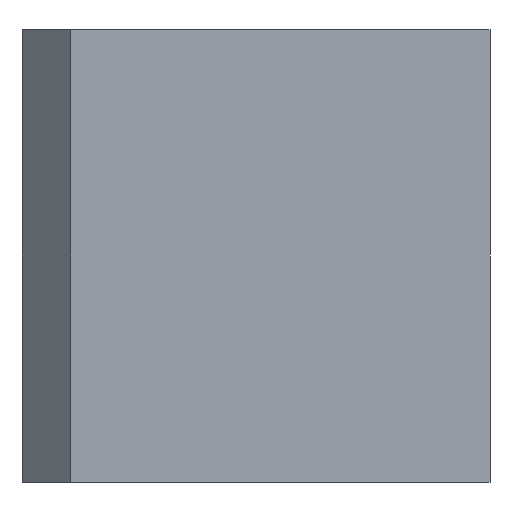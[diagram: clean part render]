
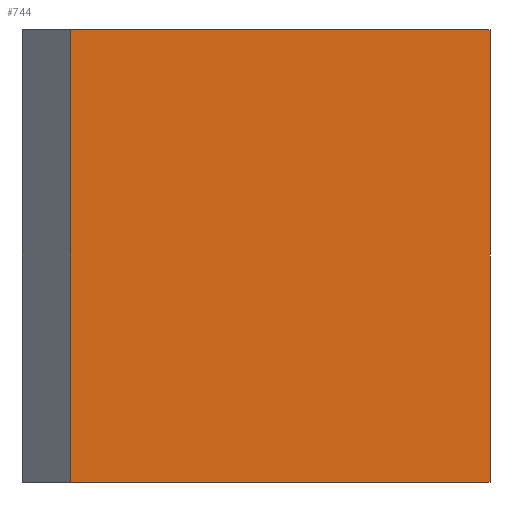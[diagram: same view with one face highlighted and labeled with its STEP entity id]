
A CAD part, front view. The second image highlights one B-rep face of the part: STEP entity #744.
In plain terms, the highlighted planar face has unit normal (0, -1, 0).
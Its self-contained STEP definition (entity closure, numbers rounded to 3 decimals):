
#32 = PLANE('',#33);
#33 = AXIS2_PLACEMENT_3D('',#34,#35,#36);
#34 = CARTESIAN_POINT('',(1226.,-1226.,0.));
#35 = DIRECTION('',(0.707,0.707,0.));
#36 = DIRECTION('',(-0.707,0.707,0.));
#57 = VERTEX_POINT('',#58);
#58 = CARTESIAN_POINT('',(1226.,-1226.,0.));
#72 = PLANE('',#73);
#73 = AXIS2_PLACEMENT_3D('',#74,#75,#76);
#74 = CARTESIAN_POINT('',(0.,0.,0.));
#75 = DIRECTION('',(0.,0.,1.));
#76 = DIRECTION('',(1.,0.,0.));
#84 = EDGE_CURVE('',#57,#85,#87,.T.);
#85 = VERTEX_POINT('',#86);
#86 = CARTESIAN_POINT('',(1226.,-1226.,11400.));
#87 = SURFACE_CURVE('',#88,(#92,#99),.PCURVE_S1.);
#88 = LINE('',#89,#90);
#89 = CARTESIAN_POINT('',(1226.,-1226.,5700.));
#90 = VECTOR('',#91,1.);
#91 = DIRECTION('',(0.,0.,1.));
#92 = PCURVE('',#32,#93);
#93 = DEFINITIONAL_REPRESENTATION('',(#94),#98);
#94 = LINE('',#95,#96);
#95 = CARTESIAN_POINT('',(0.,5700.));
#96 = VECTOR('',#97,1.);
#97 = DIRECTION('',(0.,1.));
#98 = ( GEOMETRIC_REPRESENTATION_CONTEXT(2) 
PARAMETRIC_REPRESENTATION_CONTEXT() REPRESENTATION_CONTEXT('2D SPACE',''
  ) );
#99 = PCURVE('',#100,#105);
#100 = PLANE('',#101);
#101 = AXIS2_PLACEMENT_3D('',#102,#103,#104);
#102 = CARTESIAN_POINT('',(11800.,-1226.,0.));
#103 = DIRECTION('',(0.,1.,0.));
#104 = DIRECTION('',(-1.,0.,0.));
#105 = DEFINITIONAL_REPRESENTATION('',(#106),#110);
#106 = LINE('',#107,#108);
#107 = CARTESIAN_POINT('',(10574.,5700.));
#108 = VECTOR('',#109,1.);
#109 = DIRECTION('',(0.,1.));
#110 = ( GEOMETRIC_REPRESENTATION_CONTEXT(2) 
PARAMETRIC_REPRESENTATION_CONTEXT() REPRESENTATION_CONTEXT('2D SPACE',''
  ) );
#126 = PLANE('',#127);
#127 = AXIS2_PLACEMENT_3D('',#128,#129,#130);
#128 = CARTESIAN_POINT('',(0.,0.,11400.));
#129 = DIRECTION('',(0.,0.,1.));
#130 = DIRECTION('',(1.,0.,0.));
#249 = EDGE_CURVE('',#250,#85,#252,.T.);
#250 = VERTEX_POINT('',#251);
#251 = CARTESIAN_POINT('',(11800.,-1226.,11400.));
#252 = SURFACE_CURVE('',#253,(#257,#264),.PCURVE_S1.);
#253 = LINE('',#254,#255);
#254 = CARTESIAN_POINT('',(6513.,-1226.,11400.));
#255 = VECTOR('',#256,1.);
#256 = DIRECTION('',(-1.,0.,0.));
#257 = PCURVE('',#126,#258);
#258 = DEFINITIONAL_REPRESENTATION('',(#259),#263);
#259 = LINE('',#260,#261);
#260 = CARTESIAN_POINT('',(6513.,-1226.));
#261 = VECTOR('',#262,1.);
#262 = DIRECTION('',(-1.,0.));
#263 = ( GEOMETRIC_REPRESENTATION_CONTEXT(2) 
PARAMETRIC_REPRESENTATION_CONTEXT() REPRESENTATION_CONTEXT('2D SPACE',''
  ) );
#264 = PCURVE('',#100,#265);
#265 = DEFINITIONAL_REPRESENTATION('',(#266),#270);
#266 = LINE('',#267,#268);
#267 = CARTESIAN_POINT('',(5287.,11400.));
#268 = VECTOR('',#269,1.);
#269 = DIRECTION('',(1.,0.));
#270 = ( GEOMETRIC_REPRESENTATION_CONTEXT(2) 
PARAMETRIC_REPRESENTATION_CONTEXT() REPRESENTATION_CONTEXT('2D SPACE',''
  ) );
#288 = PLANE('',#289);
#289 = AXIS2_PLACEMENT_3D('',#290,#291,#292);
#290 = CARTESIAN_POINT('',(11800.,8674.,0.));
#291 = DIRECTION('',(-1.,0.,0.));
#292 = DIRECTION('',(0.,-1.,0.));
#744 = ADVANCED_FACE('',(#745),#100,.F.);
#745 = FACE_BOUND('',#746,.T.);
#746 = EDGE_LOOP('',(#747,#748,#771,#792));
#747 = ORIENTED_EDGE('',*,*,#84,.F.);
#748 = ORIENTED_EDGE('',*,*,#749,.F.);
#749 = EDGE_CURVE('',#750,#57,#752,.T.);
#750 = VERTEX_POINT('',#751);
#751 = CARTESIAN_POINT('',(11800.,-1226.,0.));
#752 = SURFACE_CURVE('',#753,(#757,#764),.PCURVE_S1.);
#753 = LINE('',#754,#755);
#754 = CARTESIAN_POINT('',(6513.,-1226.,0.));
#755 = VECTOR('',#756,1.);
#756 = DIRECTION('',(-1.,0.,0.));
#757 = PCURVE('',#100,#758);
#758 = DEFINITIONAL_REPRESENTATION('',(#759),#763);
#759 = LINE('',#760,#761);
#760 = CARTESIAN_POINT('',(5287.,0.));
#761 = VECTOR('',#762,1.);
#762 = DIRECTION('',(1.,0.));
#763 = ( GEOMETRIC_REPRESENTATION_CONTEXT(2) 
PARAMETRIC_REPRESENTATION_CONTEXT() REPRESENTATION_CONTEXT('2D SPACE',''
  ) );
#764 = PCURVE('',#72,#765);
#765 = DEFINITIONAL_REPRESENTATION('',(#766),#770);
#766 = LINE('',#767,#768);
#767 = CARTESIAN_POINT('',(6513.,-1226.));
#768 = VECTOR('',#769,1.);
#769 = DIRECTION('',(-1.,0.));
#770 = ( GEOMETRIC_REPRESENTATION_CONTEXT(2) 
PARAMETRIC_REPRESENTATION_CONTEXT() REPRESENTATION_CONTEXT('2D SPACE',''
  ) );
#771 = ORIENTED_EDGE('',*,*,#772,.T.);
#772 = EDGE_CURVE('',#750,#250,#773,.T.);
#773 = SURFACE_CURVE('',#774,(#778,#785),.PCURVE_S1.);
#774 = LINE('',#775,#776);
#775 = CARTESIAN_POINT('',(11800.,-1226.,5700.));
#776 = VECTOR('',#777,1.);
#777 = DIRECTION('',(0.,0.,1.));
#778 = PCURVE('',#100,#779);
#779 = DEFINITIONAL_REPRESENTATION('',(#780),#784);
#780 = LINE('',#781,#782);
#781 = CARTESIAN_POINT('',(0.,5700.));
#782 = VECTOR('',#783,1.);
#783 = DIRECTION('',(0.,1.));
#784 = ( GEOMETRIC_REPRESENTATION_CONTEXT(2) 
PARAMETRIC_REPRESENTATION_CONTEXT() REPRESENTATION_CONTEXT('2D SPACE',''
  ) );
#785 = PCURVE('',#288,#786);
#786 = DEFINITIONAL_REPRESENTATION('',(#787),#791);
#787 = LINE('',#788,#789);
#788 = CARTESIAN_POINT('',(9900.,5700.));
#789 = VECTOR('',#790,1.);
#790 = DIRECTION('',(0.,1.));
#791 = ( GEOMETRIC_REPRESENTATION_CONTEXT(2) 
PARAMETRIC_REPRESENTATION_CONTEXT() REPRESENTATION_CONTEXT('2D SPACE',''
  ) );
#792 = ORIENTED_EDGE('',*,*,#249,.T.);
